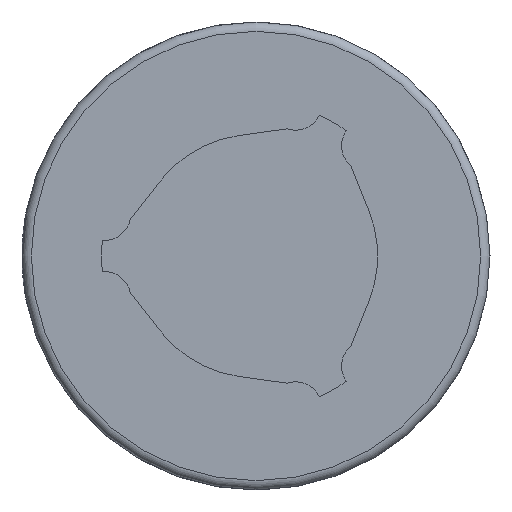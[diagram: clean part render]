
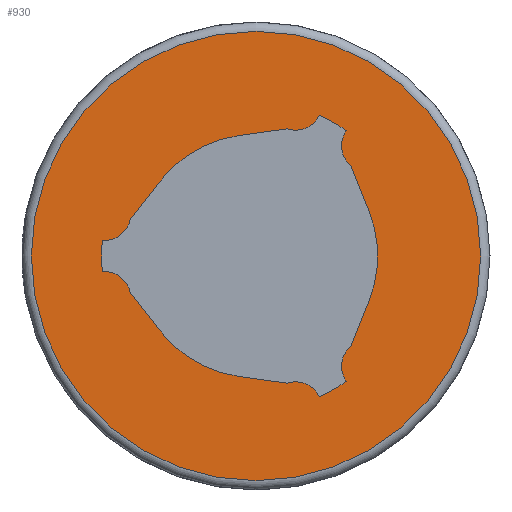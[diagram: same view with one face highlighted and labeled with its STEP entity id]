
A CAD part, left-side view. The second image highlights one B-rep face of the part: STEP entity #930.
In plain terms, the highlighted planar face has unit normal (-1, 0, 0).
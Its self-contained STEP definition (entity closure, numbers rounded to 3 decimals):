
#71=LINE('',#1439,#141);
#72=LINE('',#1448,#142);
#73=LINE('',#1452,#143);
#74=LINE('',#1460,#144);
#75=LINE('',#1464,#145);
#76=LINE('',#1472,#146);
#141=VECTOR('',#1135,1000.);
#142=VECTOR('',#1142,1000.);
#143=VECTOR('',#1145,1000.);
#144=VECTOR('',#1152,1000.);
#145=VECTOR('',#1155,1000.);
#146=VECTOR('',#1162,1000.);
#211=ORIENTED_EDGE('',*,*,#483,.F.);
#212=ORIENTED_EDGE('',*,*,#484,.T.);
#213=ORIENTED_EDGE('',*,*,#485,.F.);
#214=ORIENTED_EDGE('',*,*,#486,.T.);
#215=ORIENTED_EDGE('',*,*,#487,.F.);
#216=ORIENTED_EDGE('',*,*,#488,.T.);
#217=ORIENTED_EDGE('',*,*,#489,.T.);
#218=ORIENTED_EDGE('',*,*,#490,.T.);
#219=ORIENTED_EDGE('',*,*,#491,.F.);
#220=ORIENTED_EDGE('',*,*,#492,.T.);
#221=ORIENTED_EDGE('',*,*,#493,.F.);
#222=ORIENTED_EDGE('',*,*,#494,.T.);
#223=ORIENTED_EDGE('',*,*,#495,.T.);
#224=ORIENTED_EDGE('',*,*,#496,.T.);
#225=ORIENTED_EDGE('',*,*,#497,.F.);
#226=ORIENTED_EDGE('',*,*,#498,.T.);
#227=ORIENTED_EDGE('',*,*,#499,.F.);
#228=ORIENTED_EDGE('',*,*,#500,.T.);
#229=ORIENTED_EDGE('',*,*,#501,.T.);
#483=EDGE_CURVE('',#619,#619,#713,.T.);
#484=EDGE_CURVE('',#620,#621,#71,.T.);
#485=EDGE_CURVE('',#622,#621,#714,.T.);
#486=EDGE_CURVE('',#622,#623,#715,.T.);
#487=EDGE_CURVE('',#624,#623,#716,.T.);
#488=EDGE_CURVE('',#624,#625,#72,.T.);
#489=EDGE_CURVE('',#625,#626,#717,.T.);
#490=EDGE_CURVE('',#626,#627,#73,.T.);
#491=EDGE_CURVE('',#628,#627,#718,.T.);
#492=EDGE_CURVE('',#628,#629,#719,.T.);
#493=EDGE_CURVE('',#630,#629,#720,.T.);
#494=EDGE_CURVE('',#630,#631,#74,.T.);
#495=EDGE_CURVE('',#631,#632,#721,.T.);
#496=EDGE_CURVE('',#632,#633,#75,.T.);
#497=EDGE_CURVE('',#634,#633,#722,.T.);
#498=EDGE_CURVE('',#634,#635,#723,.T.);
#499=EDGE_CURVE('',#636,#635,#724,.T.);
#500=EDGE_CURVE('',#636,#637,#76,.T.);
#501=EDGE_CURVE('',#637,#620,#725,.T.);
#619=VERTEX_POINT('',#1438);
#620=VERTEX_POINT('',#1440);
#621=VERTEX_POINT('',#1441);
#622=VERTEX_POINT('',#1443);
#623=VERTEX_POINT('',#1445);
#624=VERTEX_POINT('',#1447);
#625=VERTEX_POINT('',#1449);
#626=VERTEX_POINT('',#1451);
#627=VERTEX_POINT('',#1453);
#628=VERTEX_POINT('',#1455);
#629=VERTEX_POINT('',#1457);
#630=VERTEX_POINT('',#1459);
#631=VERTEX_POINT('',#1461);
#632=VERTEX_POINT('',#1463);
#633=VERTEX_POINT('',#1465);
#634=VERTEX_POINT('',#1467);
#635=VERTEX_POINT('',#1469);
#636=VERTEX_POINT('',#1471);
#637=VERTEX_POINT('',#1473);
#713=CIRCLE('',#1013,36.);
#714=CIRCLE('',#1014,4.13);
#715=CIRCLE('',#1015,24.75);
#716=CIRCLE('',#1016,4.13);
#717=CIRCLE('',#1017,19.5);
#718=CIRCLE('',#1018,4.13);
#719=CIRCLE('',#1019,24.75);
#720=CIRCLE('',#1020,4.13);
#721=CIRCLE('',#1021,19.5);
#722=CIRCLE('',#1022,4.13);
#723=CIRCLE('',#1023,24.75);
#724=CIRCLE('',#1024,4.13);
#725=CIRCLE('',#1025,19.5);
#772=EDGE_LOOP('',(#211));
#773=EDGE_LOOP('',(#212,#213,#214,#215,#216,#217,#218,#219,#220,#221,#222,
#223,#224,#225,#226,#227,#228,#229));
#840=FACE_BOUND('',#772,.T.);
#841=FACE_BOUND('',#773,.T.);
#908=PLANE('',#1012);
#930=ADVANCED_FACE('',(#840,#841),#908,.F.);
#1012=AXIS2_PLACEMENT_3D('',#1436,#1131,#1132);
#1013=AXIS2_PLACEMENT_3D('',#1437,#1133,#1134);
#1014=AXIS2_PLACEMENT_3D('',#1442,#1136,#1137);
#1015=AXIS2_PLACEMENT_3D('',#1444,#1138,#1139);
#1016=AXIS2_PLACEMENT_3D('',#1446,#1140,#1141);
#1017=AXIS2_PLACEMENT_3D('',#1450,#1143,#1144);
#1018=AXIS2_PLACEMENT_3D('',#1454,#1146,#1147);
#1019=AXIS2_PLACEMENT_3D('',#1456,#1148,#1149);
#1020=AXIS2_PLACEMENT_3D('',#1458,#1150,#1151);
#1021=AXIS2_PLACEMENT_3D('',#1462,#1153,#1154);
#1022=AXIS2_PLACEMENT_3D('',#1466,#1156,#1157);
#1023=AXIS2_PLACEMENT_3D('',#1468,#1158,#1159);
#1024=AXIS2_PLACEMENT_3D('',#1470,#1160,#1161);
#1025=AXIS2_PLACEMENT_3D('',#1474,#1163,#1164);
#1131=DIRECTION('',(1.,0.,0.));
#1132=DIRECTION('',(0.,1.,0.));
#1133=DIRECTION('',(1.,0.,0.));
#1134=DIRECTION('',(0.,1.,0.));
#1135=DIRECTION('',(0.,-0.99,0.139));
#1136=DIRECTION('',(1.,0.,0.));
#1137=DIRECTION('',(0.,0.,-1.));
#1138=DIRECTION('',(1.,0.,0.));
#1139=DIRECTION('',(0.,0.,-1.));
#1140=DIRECTION('',(1.,0.,0.));
#1141=DIRECTION('',(0.,0.,-1.));
#1142=DIRECTION('',(0.,-0.375,-0.927));
#1143=DIRECTION('',(1.,0.,0.));
#1144=DIRECTION('',(0.,0.,-1.));
#1145=DIRECTION('',(0.,0.375,-0.927));
#1146=DIRECTION('',(1.,0.,0.));
#1147=DIRECTION('',(0.,0.,-1.));
#1148=DIRECTION('',(1.,0.,0.));
#1149=DIRECTION('',(0.,0.,-1.));
#1150=DIRECTION('',(1.,0.,0.));
#1151=DIRECTION('',(0.,0.,-1.));
#1152=DIRECTION('',(0.,0.99,0.139));
#1153=DIRECTION('',(1.,0.,0.));
#1154=DIRECTION('',(0.,0.,-1.));
#1155=DIRECTION('',(0.,0.616,0.788));
#1156=DIRECTION('',(1.,0.,0.));
#1157=DIRECTION('',(0.,0.,-1.));
#1158=DIRECTION('',(1.,0.,0.));
#1159=DIRECTION('',(0.,0.,-1.));
#1160=DIRECTION('',(1.,0.,0.));
#1161=DIRECTION('',(0.,0.,-1.));
#1162=DIRECTION('',(0.,-0.616,0.788));
#1163=DIRECTION('',(1.,0.,0.));
#1164=DIRECTION('',(0.,0.,-1.));
#1436=CARTESIAN_POINT('',(0.,0.,0.));
#1437=CARTESIAN_POINT('',(0.,0.,0.));
#1438=CARTESIAN_POINT('',(0.,36.,0.));
#1439=CARTESIAN_POINT('',(0.,2.714,19.31));
#1440=CARTESIAN_POINT('',(0.,2.714,19.31));
#1441=CARTESIAN_POINT('',(0.,-5.006,20.395));
#1442=CARTESIAN_POINT('',(0.,-6.39,24.287));
#1443=CARTESIAN_POINT('',(0.,-10.148,22.574));
#1444=CARTESIAN_POINT('',(0.,0.,0.));
#1445=CARTESIAN_POINT('',(0.,-14.476,20.075));
#1446=CARTESIAN_POINT('',(0.,-17.838,17.677));
#1447=CARTESIAN_POINT('',(0.,-15.16,14.533));
#1448=CARTESIAN_POINT('',(0.,-15.16,14.533));
#1449=CARTESIAN_POINT('',(0.,-18.08,7.305));
#1450=CARTESIAN_POINT('',(0.,0.,0.));
#1451=CARTESIAN_POINT('',(0.,-18.08,-7.305));
#1452=CARTESIAN_POINT('',(0.,-18.08,-7.305));
#1453=CARTESIAN_POINT('',(0.,-15.16,-14.533));
#1454=CARTESIAN_POINT('',(0.,-17.838,-17.677));
#1455=CARTESIAN_POINT('',(0.,-14.476,-20.075));
#1456=CARTESIAN_POINT('',(0.,0.,0.));
#1457=CARTESIAN_POINT('',(0.,-10.148,-22.574));
#1458=CARTESIAN_POINT('',(0.,-6.39,-24.287));
#1459=CARTESIAN_POINT('',(0.,-5.006,-20.395));
#1460=CARTESIAN_POINT('',(0.,-5.006,-20.395));
#1461=CARTESIAN_POINT('',(0.,2.714,-19.31));
#1462=CARTESIAN_POINT('',(0.,0.,0.));
#1463=CARTESIAN_POINT('',(0.,15.366,-12.005));
#1464=CARTESIAN_POINT('',(0.,15.366,-12.005));
#1465=CARTESIAN_POINT('',(0.,20.166,-5.862));
#1466=CARTESIAN_POINT('',(0.,24.228,-6.61));
#1467=CARTESIAN_POINT('',(0.,24.624,-2.499));
#1468=CARTESIAN_POINT('',(0.,0.,0.));
#1469=CARTESIAN_POINT('',(0.,24.624,2.499));
#1470=CARTESIAN_POINT('',(0.,24.228,6.61));
#1471=CARTESIAN_POINT('',(0.,20.166,5.862));
#1472=CARTESIAN_POINT('',(0.,20.166,5.862));
#1473=CARTESIAN_POINT('',(0.,15.366,12.005));
#1474=CARTESIAN_POINT('',(0.,0.,0.));
